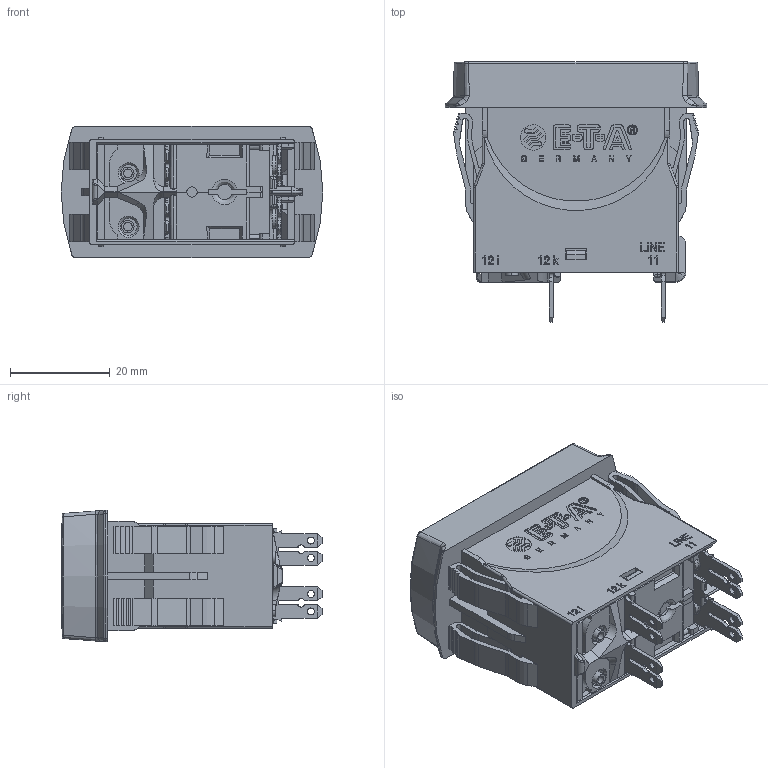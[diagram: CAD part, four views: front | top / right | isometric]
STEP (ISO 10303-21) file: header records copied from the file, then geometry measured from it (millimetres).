
FILE_DESCRIPTION((''),'2;1');
FILE_NAME('DUMMY-3120-N52F-P7','2019-08-06T13:21:55',('wschmidt'),(''),'CREO PARAMETRIC BY PTC INC, 2017260','CREO PARAMETRIC BY PTC INC, 2017260','');
FILE_SCHEMA(('AUTOMOTIVE_DESIGN { 1 0 10303 214 1 1 1 1 }'));
Products named in the file (1): DUMMY-3120-N52F-P7
Bounding box: 52.4 x 52.17 x 26.43 mm (x, y, z)
Volume: 32523.4 mm3; surface area: 22623.9 mm2
Topology: 1 solids, 1 shells, 2067 faces, 5606 edges, 3611 vertices
Faces by surface type: plane 1173, cylinder 375, extrusion 306, bspline 123, sphere 40, torus 32, cone 18
Entity records: 75142 total; most frequent: CARTESIAN_POINT 24767, ORIENTED_EDGE 11202, DIRECTION 8668, EDGE_CURVE 5601, VECTOR 4114, LINE 3808, VERTEX_POINT 3611, AXIS2_PLACEMENT_3D 2277
